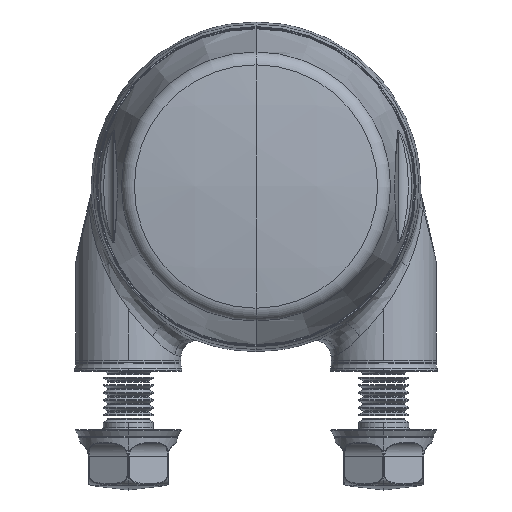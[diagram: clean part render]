
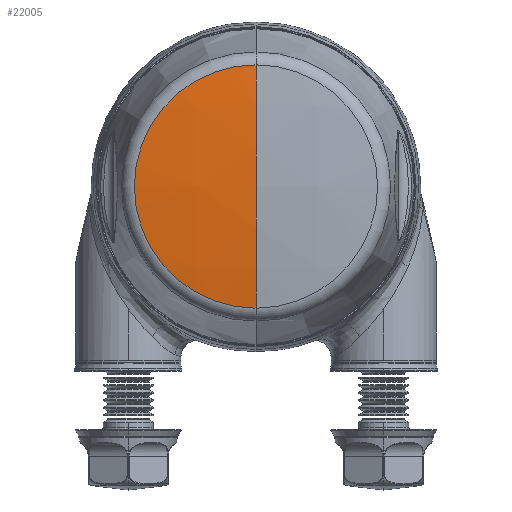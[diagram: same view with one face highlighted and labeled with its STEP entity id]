
A CAD part, top view. The second image highlights one B-rep face of the part: STEP entity #22005.
In plain terms, the highlighted spherical face has radius 200 mm.
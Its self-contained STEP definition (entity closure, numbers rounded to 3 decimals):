
#383 = SPHERICAL_SURFACE ( 'NONE', #16805, 200. ) ;
#818 = CARTESIAN_POINT ( 'NONE',  ( 0., -24.283, 40.272 ) ) ;
#1199 = EDGE_LOOP ( 'NONE', ( #18757, #18348, #22507 ) ) ;
#1671 = DIRECTION ( 'NONE',  ( 0., -1., 0. ) ) ;
#3472 = DIRECTION ( 'NONE',  ( -1., 0., 0. ) ) ;
#3880 = CIRCLE ( 'NONE', #14497, 200. ) ;
#4029 = EDGE_CURVE ( 'NONE', #21105, #8225, #14119, .T. ) ;
#5220 = AXIS2_PLACEMENT_3D ( 'NONE', #24428, #7626, #21073 ) ;
#5882 = DIRECTION ( 'NONE',  ( 0., 1., 0. ) ) ;
#7626 = DIRECTION ( 'NONE',  ( 0., 0., 1. ) ) ;
#8225 = VERTEX_POINT ( 'NONE', #24119 ) ;
#9526 = VERTEX_POINT ( 'NONE', #818 ) ;
#11200 = EDGE_CURVE ( 'NONE', #8225, #9526, #15854, .T. ) ;
#12599 = EDGE_CURVE ( 'NONE', #21105, #9526, #3880, .T. ) ;
#13552 = CARTESIAN_POINT ( 'NONE',  ( 0., 0., -158.249 ) ) ;
#14119 = CIRCLE ( 'NONE', #16954, 200. ) ;
#14497 = AXIS2_PLACEMENT_3D ( 'NONE', #23172, #15219, #5882 ) ;
#15219 = DIRECTION ( 'NONE',  ( 1., 0., 0. ) ) ;
#15854 = CIRCLE ( 'NONE', #5220, 24.283 ) ;
#16304 = CARTESIAN_POINT ( 'NONE',  ( 0., 0., 41.751 ) ) ;
#16805 = AXIS2_PLACEMENT_3D ( 'NONE', #21872, #20057, #21746 ) ;
#16954 = AXIS2_PLACEMENT_3D ( 'NONE', #13552, #3472, #1671 ) ;
#18348 = ORIENTED_EDGE ( 'NONE', *, *, #4029, .T. ) ;
#18757 = ORIENTED_EDGE ( 'NONE', *, *, #12599, .F. ) ;
#20057 = DIRECTION ( 'NONE',  ( -1., 0., 0. ) ) ;
#21073 = DIRECTION ( 'NONE',  ( 0., 1., 0. ) ) ;
#21105 = VERTEX_POINT ( 'NONE', #16304 ) ;
#21746 = DIRECTION ( 'NONE',  ( 0., -1., 0. ) ) ;
#21872 = CARTESIAN_POINT ( 'NONE',  ( 0., 0., -158.249 ) ) ;
#22000 = FACE_OUTER_BOUND ( 'NONE', #1199, .T. ) ;
#22005 = ADVANCED_FACE ( 'NONE', ( #22000 ), #383, .T. ) ;
#22507 = ORIENTED_EDGE ( 'NONE', *, *, #11200, .T. ) ;
#23172 = CARTESIAN_POINT ( 'NONE',  ( 0., 0., -158.249 ) ) ;
#24119 = CARTESIAN_POINT ( 'NONE',  ( 0., 24.283, 40.272 ) ) ;
#24428 = CARTESIAN_POINT ( 'NONE',  ( 0., 0., 40.272 ) ) ;
